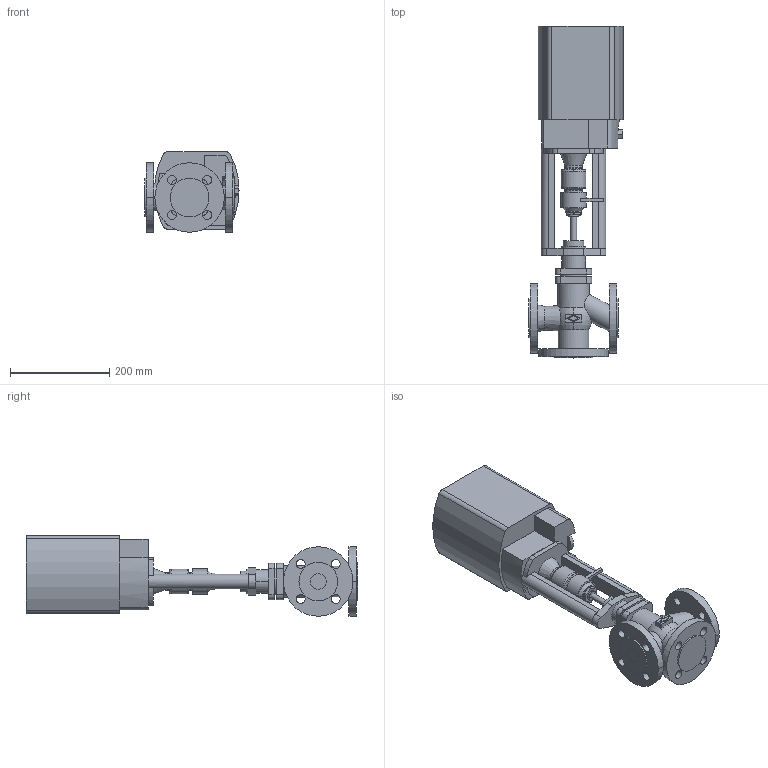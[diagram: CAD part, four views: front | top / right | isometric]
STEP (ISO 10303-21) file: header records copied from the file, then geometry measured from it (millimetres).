
FILE_DESCRIPTION( ( '' ), '1' );
FILE_NAME( 'F:/DE-SHS/TB/OR/04-Sonstiges/daten/files_3d/450-PREMIO-Plus-2G/c000006509.stp', '2017-02-22T12:48:18', ( '' ), ( '' ), ' ', ' ', ' ' );
FILE_SCHEMA( ( 'CONFIG_CONTROL_DESIGN' ) );
Length unit declared in the file: millimetre
Products named in the file (2): 1; 2
Bounding box: 189.7 x 669 x 162.3 mm (x, y, z)
Volume: 7765336.2 mm3; surface area: 453271.4 mm2
Topology: 2 solids, 2 shells, 247 faces, 639 edges, 422 vertices
Faces by surface type: cylinder 112, plane 112, cone 12, torus 11
Entity records: 8208 total; most frequent: CARTESIAN_POINT 1754, DIRECTION 1424, ORIENTED_EDGE 1278, EDGE_CURVE 639, AXIS2_PLACEMENT_3D 552, VERTEX_POINT 422, LINE 320, VECTOR 320
